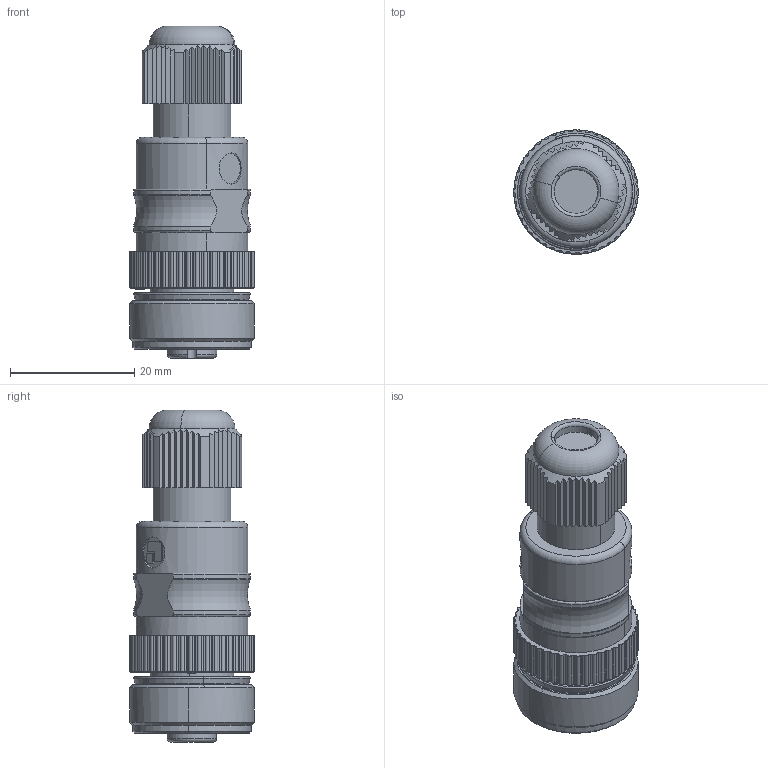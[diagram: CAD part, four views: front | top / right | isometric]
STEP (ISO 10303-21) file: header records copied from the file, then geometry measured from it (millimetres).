
FILE_DESCRIPTION(('Creo Elements/Direct Modeling STEP Export'),'2;1');
FILE_NAME('C:/Data/JobServerData/JobServer Files/453710cd-e575-451d-97f1-6d9934932d8c/work/output/model.stp','2019-11-19T15:27:33',(''),(''),'PTC Creo Elements/Direct Modeling STEP processor for AP214 (Solid Model)','PTC Creo Elements/Direct Modeling 19.0B 21-Mar-2015 (C) Parametric Technology GmbH','');
FILE_SCHEMA(('AUTOMOTIVE_DESIGN { 1 0 10303 214 1 1 1 1 }'));
Length unit declared in the file: millimetre
Products named in the file (2): 1240A01_4pol_T7
Assembly tree (1 placements, depth 2):
  1240A01_4pol_T7
    1240A01_4pol_T7
Bounding box: 19.99 x 20 x 53.35 mm (x, y, z)
Volume: 11663.7 mm3; surface area: 4647.6 mm2
Topology: 1 solids, 1 shells, 596 faces, 1536 edges, 961 vertices
Faces by surface type: plane 226, cylinder 188, cone 155, torus 27
Entity records: 20137 total; most frequent: CARTESIAN_POINT 5511, ORIENTED_EDGE 3072, DIRECTION 2920, EDGE_CURVE 1536, AXIS2_PLACEMENT_3D 1104, VERTEX_POINT 961, VECTOR 712, LINE 712
